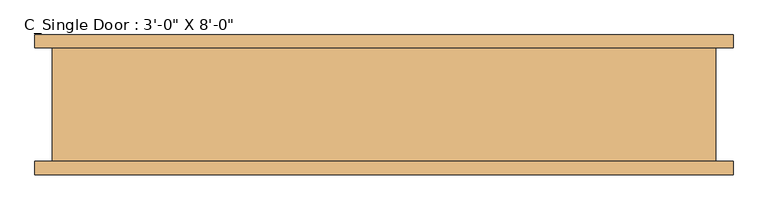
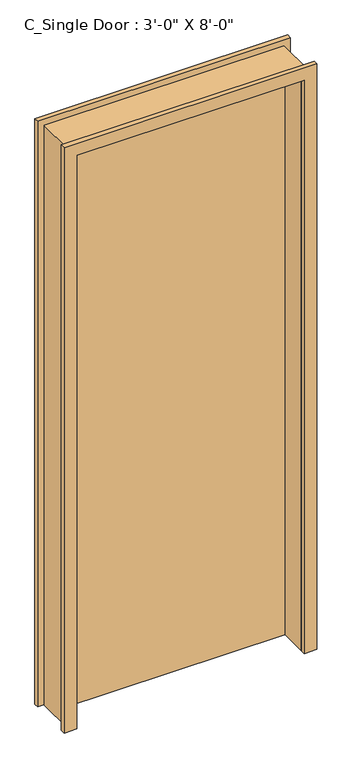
"""IFC4 building model written with IfcOpenShell, lengths in millimetres: door geometry."""

from ifc_helpers import new_model, si_unit, frame, origin, origin_with_axes, place, context, project, spatial, polyline, outline, extrude, source, transform, mapped, element, save


def door_d19942fc(model_context):
    return source(origin(), model_context, "Body", "SweptSolid", [
        extrude(outline(polyline([(457.2, 82.55), (457.2, 31.75), (-457.2, 31.75), (-457.2, 82.55), (457.2, 82.55)])), origin_with_axes(), (0.0, 0.0, 1.0), 2438.4),
        extrude(outline(polyline([(2438.4, -457.2), (2438.4, 457.2), (0.0, 457.2), (0.0, 508.0), (2489.2, 508.0), (2489.2, -508.0), (0.0, -508.0), (0.0, -457.2), (2438.4, -457.2)])), frame((0.0, 82.55, 0.0), z_axis=(0.0, 1.0, 0.0), x_axis=(0.0, 0.0, 1.0)), (0.0, 0.0, 1.0), 19.05),
        extrude(outline(polyline([(2438.4, -457.2), (2438.4, 457.2), (0.0, 457.2), (0.0, 508.0), (2489.2, 508.0), (2489.2, -508.0), (0.0, -508.0), (0.0, -457.2), (2438.4, -457.2)])), frame((0.0, -101.6, 0.0), z_axis=(0.0, 1.0, 0.0), x_axis=(0.0, 0.0, 1.0)), (0.0, 0.0, 1.0), 19.05),
        extrude(outline(polyline([(0.0, -457.2), (2438.4, -457.2), (2438.4, 457.2), (0.0, 457.2), (0.0, 482.6), (2463.8, 482.6), (2463.8, -482.6), (0.0, -482.6), (0.0, -457.2)])), frame((0.0, -82.55, 0.0), z_axis=(0.0, 1.0, 0.0), x_axis=(0.0, 0.0, 1.0)), (0.0, 0.0, 1.0), 165.1),
    ])


if __name__ == "__main__":
    model = new_model("IFC4")
    model_context = context("Model", 3, world=origin())
    ifc_project = project(units=[si_unit("LENGTHUNIT", "METRE", prefix="MILLI")], contexts=[model_context])
    site = spatial("IfcSite", under=ifc_project)
    building = spatial("IfcBuilding", under=site)
    placement = place(None, origin())
    door_shape = door_d19942fc(model_context)
    element("IfcDoor", 1, ObjectType="C_Single Door : 3'-0\" X 8'-0\"", at=placement, inside=building, context=model_context, shape_type="MappedRepresentation", body=[
        mapped(door_shape, transform((0.0, 0.0, 0.0), x_axis=(1.0, 0.0, 0.0), y_axis=(0.0, 1.0, 0.0), z_axis=(0.0, 0.0, 1.0))),
    ])
    save(model, "model.ifc")
